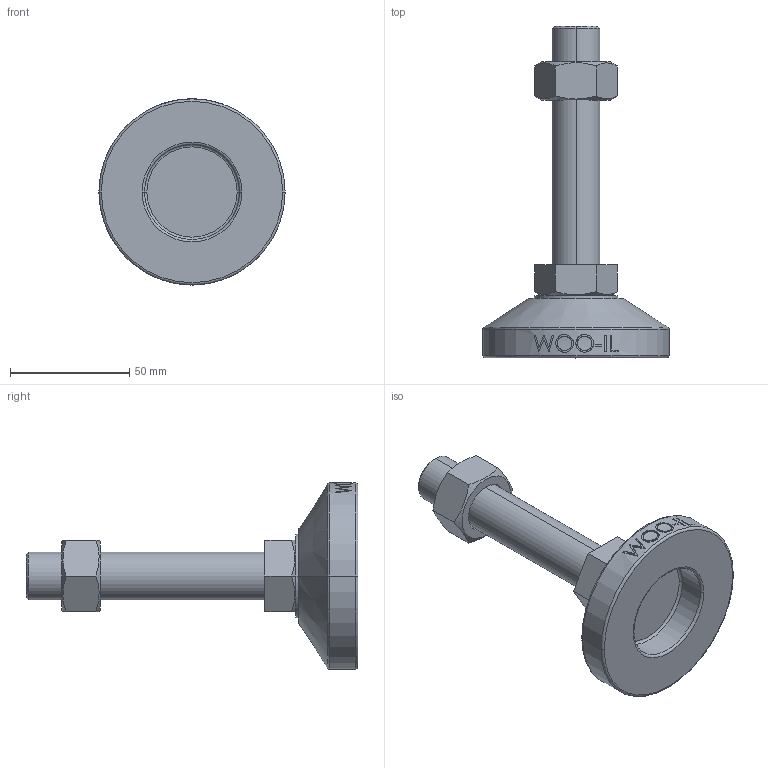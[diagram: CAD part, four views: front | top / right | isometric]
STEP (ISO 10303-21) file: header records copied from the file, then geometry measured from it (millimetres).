
FILE_DESCRIPTION (( 'STEP AP214' ), '1' );
FILE_NAME ('MF78-M20-100.step', '2021-02-03T08:21:22', ( '' ), ( '' ), 'SwSTEP 2.0', 'SolidWorks 2019', '' );
FILE_SCHEMA (( 'AUTOMOTIVE_DESIGN' ));
Length unit declared in the file: millimetre
Products named in the file (2): MF78-M20-100
Bounding box: 78 x 139 x 78 mm (x, y, z)
Volume: 128641.9 mm3; surface area: 27277.6 mm2
Topology: 3 solids, 3 shells, 106 faces, 247 edges, 158 vertices
Faces by surface type: plane 48, cylinder 18, bspline 16, cone 14, torus 10
Entity records: 4564 total; most frequent: CARTESIAN_POINT 2201, ORIENTED_EDGE 494, DIRECTION 439, EDGE_CURVE 247, AXIS2_PLACEMENT_3D 170, VERTEX_POINT 158, EDGE_LOOP 119, ADVANCED_FACE 106
